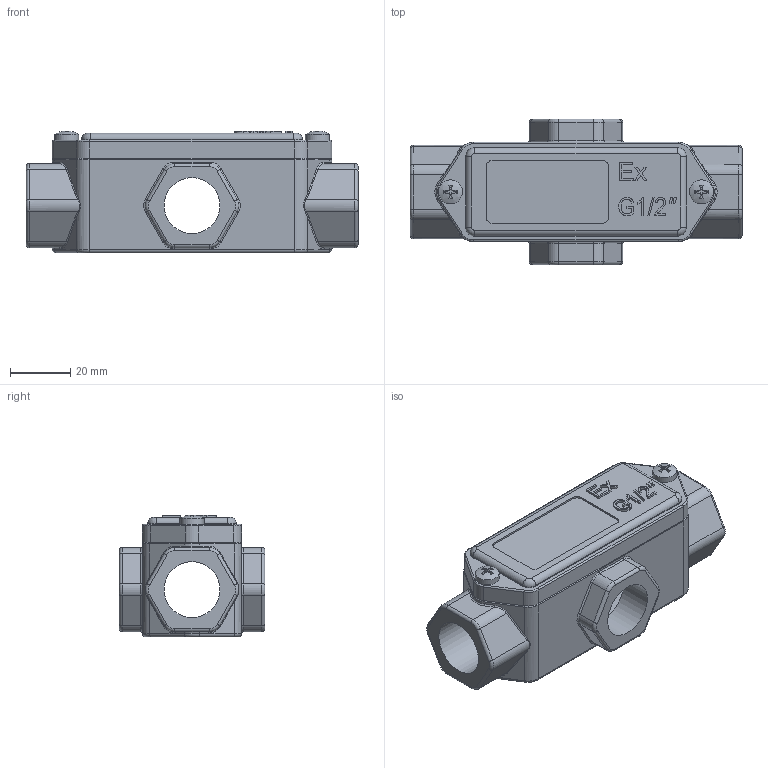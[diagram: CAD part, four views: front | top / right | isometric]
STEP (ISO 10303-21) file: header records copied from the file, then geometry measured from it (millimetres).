
FILE_DESCRIPTION (( 'STEP AP203' ), '1' );
FILE_NAME ('ﾑﾊﾂﾅ-ﾊ1_3D.STEP', '2024-03-06T07:11:59', ( '' ), ( '' ), 'SwSTEP 2.0', 'SolidWorks 2018', '' );
FILE_SCHEMA (( 'CONFIG_CONTROL_DESIGN' ));
Length unit declared in the file: millimetre
Products named in the file (1): ﾑﾊﾂﾅ-ﾊ1_3D
Bounding box: 110.5 x 48.5 x 40.57 mm (x, y, z)
Volume: 55803.7 mm3; surface area: 33698.9 mm2
Topology: 1 solids, 4 shells, 443 faces, 1082 edges, 666 vertices
Faces by surface type: plane 181, cylinder 146, torus 68, bspline 42, cone 4, sphere 2
Full cylindrical faces by diameter (mm): 3.242 x2, 3.394 x2, 4 x2, 4.5 x2, 8 x2, 18.631 x4
Entity records: 15973 total; most frequent: CARTESIAN_POINT 5738, DIRECTION 2100, ORIENTED_EDGE 2100, EDGE_CURVE 1050, AXIS2_PLACEMENT_3D 766, VERTEX_POINT 656, VECTOR 568, LINE 568
